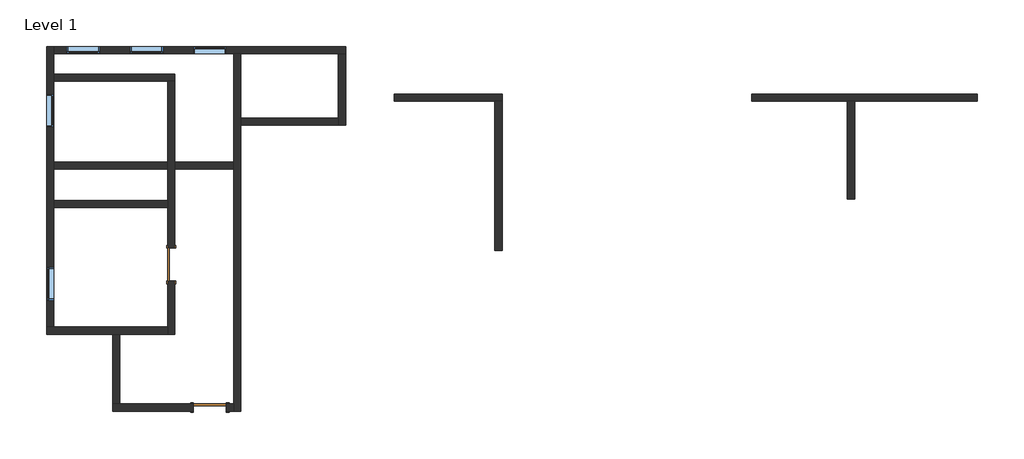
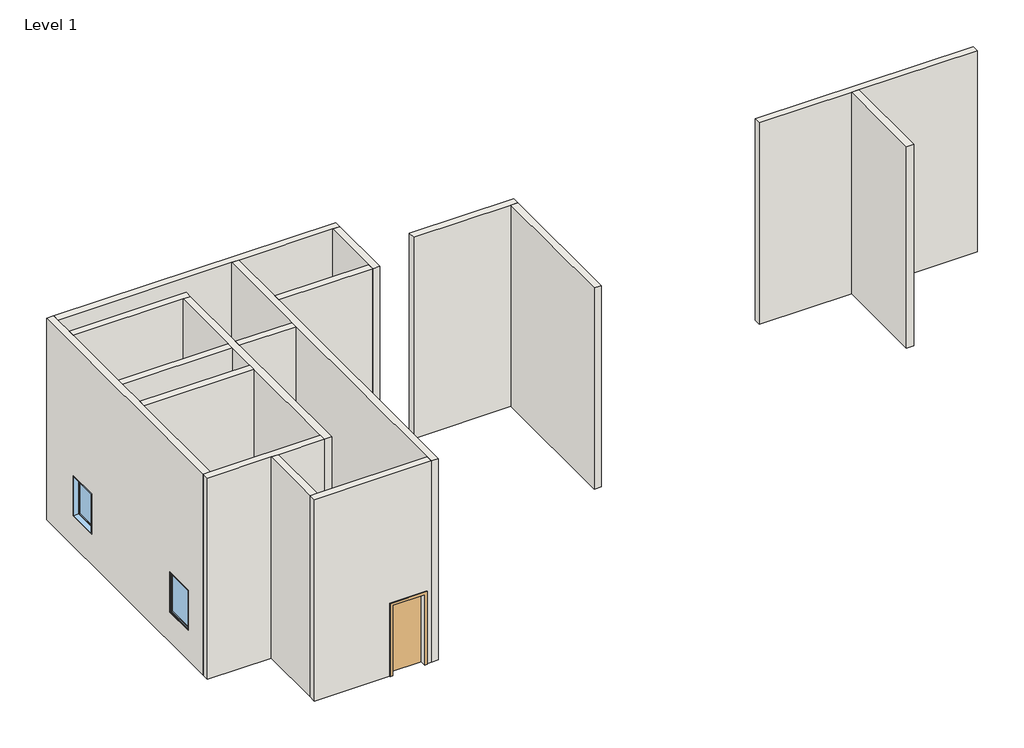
# One storey: 16 walls, 5 windows, 2 doors.
"""IFC4 building model written with IfcOpenShell, lengths in millimetres."""

from ifc_helpers import new_model, si_unit, origin, origin_with_axes, place, context, project, spatial, polyline, outline, extrude, faceted_brep, transform, mapped, element, save
from components import door_54dd4da4, door_719f80de, window_e2841890

model = new_model("IFC4")

# Units and contexts
model_context = context("Model", 3, world=origin())
ifc_project = project(units=[si_unit("LENGTHUNIT", "METRE", prefix="MILLI")], contexts=[model_context])

# Site, building, storey
site = spatial("IfcSite", under=ifc_project)
building = spatial("IfcBuilding", under=site)
storey = spatial("IfcBuildingStorey", under=building, Name="Level 1", Elevation=0.0)

# Doors
placement = place(None, origin())
door_shape = door_54dd4da4(model_context)
element("IfcDoor", 1, ObjectType="Single-Flush : 36\" x 84\"", at=placement, inside=storey, context=model_context, shape_type="MappedRepresentation", body=[
    mapped(door_shape, transform((-10326.9912144, 11594.5480126, 0.0), x_axis=(0.0, 1.0, 0.0), y_axis=(-1.0, 0.0, 0.0), z_axis=(0.0, 0.0, 1.0))),
])
door_2_shape = door_719f80de(model_context)
element("IfcDoor", 2, ObjectType="Single-Flush : 36\" x 84\"", at=placement, inside=storey, context=model_context, shape_type="MappedRepresentation", body=[
    mapped(door_2_shape, transform((-9260.1912144, 7632.1480126, 0.0), x_axis=(-1.0, 0.0, 0.0), y_axis=(0.0, -1.0, 0.0), z_axis=(0.0, 0.0, 1.0))),
])

# Walls
element("IfcWall", 3, ObjectType="Generic - 8\"", at=placement, inside=storey, context=model_context, shape_type="SweptSolid", body=[
    extrude(outline(polyline([(-10428.5912144, 13169.3480126), (-13578.1912144, 13169.3480126), (-13578.1912144, 13372.5480126), (-10428.5912144, 13372.5480126), (-10428.5912144, 13169.3480126)])), origin_with_axes(), (0.0, 0.0, 1.0), 6096.0),
])
element("IfcWall", 4, ObjectType="Generic - 8\"", at=placement, inside=storey, context=model_context, shape_type="Brep", body=[
    faceted_brep([(-10428.5912144, 16674.5480126, 0.0), (-10428.5912144, 14439.3480126, 0.0), (-10428.5912144, 14236.1480126, 0.0), (-10428.5912144, 13372.5480126, 0.0), (-10428.5912144, 13169.3480126, 0.0), (-10428.5912144, 12051.7480126, 0.0), (-10428.5912144, 12051.7480126, 2133.6), (-10428.5912144, 11137.3480126, 2133.6), (-10428.5912144, 11137.3480126, 0.0), (-10428.5912144, 9867.3480126, 0.0), (-10428.5912144, 9664.1480126, 0.0), (-10428.5912144, 9664.1480126, 6096.0), (-10428.5912144, 9867.3480126, 6096.0), (-10428.5912144, 13169.3480126, 6096.0), (-10428.5912144, 13372.5480126, 6096.0), (-10428.5912144, 14236.1480126, 6096.0), (-10428.5912144, 14439.3480126, 6096.0), (-10428.5912144, 16674.5480126, 6096.0), (-10225.3912144, 12051.7480126, 2133.6), (-10225.3912144, 12051.7480126, 0.0), (-10225.3912144, 14236.1480126, 0.0), (-10225.3912144, 14439.3480126, 0.0), (-10225.3912144, 16674.5480126, 0.0), (-10225.3912144, 16674.5480126, 6096.0), (-10225.3912144, 14439.3480126, 6096.0), (-10225.3912144, 14236.1480126, 6096.0), (-10225.3912144, 9664.1480126, 6096.0), (-10225.3912144, 9664.1480126, 0.0), (-10225.3912144, 11137.3480126, 0.0), (-10225.3912144, 11137.3480126, 2133.6)], [[[0, 1, 2, 3, 4, 5, 6, 7, 8, 9, 10, 11, 12, 13, 14, 15, 16, 17]], [[18, 19, 20, 21, 22, 23, 24, 25, 26, 27, 28, 29]], [[28, 27, 10, 9, 8]], [[22, 21, 20, 19, 5, 4, 3, 2, 1, 0]], [[17, 16, 15, 14, 13, 12, 11, 26, 25, 24, 23]], [[11, 10, 27, 26]], [[6, 5, 19, 18]], [[7, 6, 18, 29]], [[8, 7, 29, 28]], [[0, 17, 23, 22]]]),
])
element("IfcWall", 5, ObjectType="Generic - 8\"", at=placement, inside=storey, context=model_context, shape_type="Brep", body=[
    faceted_brep([(-10428.5912144, 9867.3480126, 0.0), (-13578.1912144, 9867.3480126, 0.0), (-13781.3912144, 9867.3480126, 0.0), (-13781.3912144, 9867.3480126, 6096.0), (-13578.1912144, 9867.3480126, 6096.0), (-10428.5912144, 9867.3480126, 6096.0), (-10428.5912144, 9664.1480126, 0.0), (-10428.5912144, 9664.1480126, 6096.0), (-11749.3912144, 9664.1480126, 6096.0), (-11952.5912144, 9664.1480126, 6096.0), (-13781.3912144, 9664.1480126, 6096.0), (-13781.3912144, 9664.1480126, 0.0), (-11952.5912144, 9664.1480126, 0.0), (-11749.3912144, 9664.1480126, 0.0)], [[[0, 1, 2, 3, 4, 5]], [[6, 7, 8, 9, 10, 11, 12, 13]], [[2, 1, 0, 6, 13, 12, 11]], [[5, 4, 3, 10, 9, 8, 7]], [[0, 5, 7, 6]], [[3, 2, 11, 10]]]),
])
element("IfcWall", 6, ObjectType="Generic - 8\"", at=placement, inside=storey, context=model_context, shape_type="Brep", body=[
    faceted_brep([(-13578.1912144, 9867.3480126, 0.0), (-13578.1912144, 13169.3480126, 0.0), (-13578.1912144, 13372.5480126, 0.0), (-13578.1912144, 14236.1480126, 0.0), (-13578.1912144, 14439.3480126, 0.0), (-13578.1912144, 16674.5480126, 0.0), (-13578.1912144, 16877.7480126, 0.0), (-13578.1912144, 17436.5480126, 0.0), (-13578.1912144, 17639.7480126, 0.0), (-13578.1912144, 17639.7480126, 6096.0), (-13578.1912144, 17436.5480126, 6096.0), (-13578.1912144, 16877.7480126, 6096.0), (-13578.1912144, 16674.5480126, 6096.0), (-13578.1912144, 14439.3480126, 6096.0), (-13578.1912144, 14236.1480126, 6096.0), (-13578.1912144, 13372.5480126, 6096.0), (-13578.1912144, 13169.3480126, 6096.0), (-13578.1912144, 9867.3480126, 6096.0), (-13578.1912144, 11518.3480126, 2133.6), (-13578.1912144, 11518.3480126, 914.4), (-13578.1912144, 10603.9480126, 914.4), (-13578.1912144, 10603.9480126, 2133.6), (-13578.1912144, 15404.5480126, 2133.6), (-13578.1912144, 16318.9480126, 2133.6), (-13578.1912144, 16318.9480126, 914.4), (-13578.1912144, 15404.5480126, 914.4), (-13781.3912144, 9867.3480126, 0.0), (-13781.3912144, 9867.3480126, 6096.0), (-13781.3912144, 17639.7480126, 6096.0), (-13781.3912144, 17639.7480126, 0.0), (-13781.3912144, 11518.3480126, 2133.6), (-13781.3912144, 10603.9480126, 2133.6), (-13781.3912144, 10603.9480126, 914.4), (-13781.3912144, 11518.3480126, 914.4), (-13781.3912144, 15404.5480126, 2133.6), (-13781.3912144, 15404.5480126, 914.4), (-13781.3912144, 16318.9480126, 914.4), (-13781.3912144, 16318.9480126, 2133.6)], [[[0, 1, 2, 3, 4, 5, 6, 7, 8, 9, 10, 11, 12, 13, 14, 15, 16, 17], [18, 19, 20, 21], [22, 23, 24, 25]], [[26, 27, 28, 29], [30, 31, 32, 33], [34, 35, 36, 37]], [[8, 7, 6, 5, 4, 3, 2, 1, 0, 26, 29]], [[17, 16, 15, 14, 13, 12, 11, 10, 9, 28, 27]], [[0, 17, 27, 26]], [[9, 8, 29, 28]], [[19, 18, 30, 33]], [[20, 19, 33, 32]], [[21, 20, 32, 31]], [[18, 21, 31, 30]], [[35, 34, 22, 25]], [[36, 35, 25, 24]], [[37, 36, 24, 23]], [[34, 37, 23, 22]]]),
])
element("IfcWall", 7, ObjectType="Generic - 8\"", at=placement, inside=storey, context=model_context, shape_type="Brep", body=[
    faceted_brep([(-13578.1912144, 17436.5480126, 0.0), (-8599.7912144, 17436.5480126, 0.0), (-8396.5912144, 17436.5480126, 0.0), (-5704.1912144, 17436.5480126, 0.0), (-5500.9912144, 17436.5480126, 0.0), (-5500.9912144, 17436.5480126, 6096.0), (-5704.1912144, 17436.5480126, 6096.0), (-8396.5912144, 17436.5480126, 6096.0), (-8599.7912144, 17436.5480126, 6096.0), (-13578.1912144, 17436.5480126, 6096.0), (-13222.5912144, 17436.5480126, 2133.6), (-12308.1912144, 17436.5480126, 2133.6), (-12308.1912144, 17436.5480126, 914.4), (-13222.5912144, 17436.5480126, 914.4), (-8802.9912144, 17436.5480126, 2133.6), (-8802.9912144, 17436.5480126, 914.4), (-9717.3912144, 17436.5480126, 914.4), (-9717.3912144, 17436.5480126, 2133.6), (-11469.9912144, 17436.5480126, 2133.6), (-10555.5912144, 17436.5480126, 2133.6), (-10555.5912144, 17436.5480126, 914.4), (-11469.9912144, 17436.5480126, 914.4), (-13578.1912144, 17639.7480126, 0.0), (-13578.1912144, 17639.7480126, 6096.0), (-5500.9912144, 17639.7480126, 6096.0), (-5500.9912144, 17639.7480126, 0.0), (-13222.5912144, 17639.7480126, 2133.6), (-13222.5912144, 17639.7480126, 914.4), (-12308.1912144, 17639.7480126, 914.4), (-12308.1912144, 17639.7480126, 2133.6), (-8802.9912144, 17639.7480126, 2133.6), (-9717.3912144, 17639.7480126, 2133.6), (-9717.3912144, 17639.7480126, 914.4), (-8802.9912144, 17639.7480126, 914.4), (-11469.9912144, 17639.7480126, 2133.6), (-11469.9912144, 17639.7480126, 914.4), (-10555.5912144, 17639.7480126, 914.4), (-10555.5912144, 17639.7480126, 2133.6)], [[[0, 1, 2, 3, 4, 5, 6, 7, 8, 9], [10, 11, 12, 13], [14, 15, 16, 17], [18, 19, 20, 21]], [[22, 23, 24, 25], [26, 27, 28, 29], [30, 31, 32, 33], [34, 35, 36, 37]], [[4, 3, 2, 1, 0, 22, 25]], [[9, 8, 7, 6, 5, 24, 23]], [[0, 9, 23, 22]], [[27, 26, 10, 13]], [[28, 27, 13, 12]], [[29, 28, 12, 11]], [[26, 29, 11, 10]], [[15, 14, 30, 33]], [[16, 15, 33, 32]], [[17, 16, 32, 31]], [[14, 17, 31, 30]], [[35, 34, 18, 21]], [[36, 35, 21, 20]], [[37, 36, 20, 19]], [[34, 37, 19, 18]], [[5, 4, 25, 24]]]),
])
element("IfcWall", 8, ObjectType="Generic - 8\"", at=placement, inside=storey, context=model_context, shape_type="Brep", body=[
    faceted_brep([(-8599.7912144, 17436.5480126, 0.0), (-8599.7912144, 14439.3480126, 0.0), (-8599.7912144, 14236.1480126, 0.0), (-8599.7912144, 7733.7480126, 0.0), (-8599.7912144, 7530.5480126, 0.0), (-8599.7912144, 7530.5480126, 6096.0), (-8599.7912144, 7733.7480126, 6096.0), (-8599.7912144, 14236.1480126, 6096.0), (-8599.7912144, 14439.3480126, 6096.0), (-8599.7912144, 17436.5480126, 6096.0), (-8396.5912144, 17436.5480126, 0.0), (-8396.5912144, 17436.5480126, 6096.0), (-8396.5912144, 15658.5480126, 6096.0), (-8396.5912144, 15455.3480126, 6096.0), (-8396.5912144, 7530.5480126, 6096.0), (-8396.5912144, 7530.5480126, 0.0), (-8396.5912144, 15455.3480126, 0.0), (-8396.5912144, 15658.5480126, 0.0)], [[[0, 1, 2, 3, 4, 5, 6, 7, 8, 9]], [[10, 11, 12, 13, 14, 15, 16, 17]], [[4, 3, 2, 1, 0, 10, 17, 16, 15]], [[9, 8, 7, 6, 5, 14, 13, 12, 11]], [[0, 9, 11, 10]], [[5, 4, 15, 14]]]),
])
element("IfcWall", 9, ObjectType="Generic - 8\"", at=placement, inside=storey, context=model_context, shape_type="Brep", body=[
    faceted_brep([(-9717.3912144, 7733.7480126, 2133.6), (-9717.3912144, 7733.7480126, 0.0), (-11749.3912144, 7733.7480126, 0.0), (-11952.5912144, 7733.7480126, 0.0), (-11952.5912144, 7733.7480126, 6096.0), (-11749.3912144, 7733.7480126, 6096.0), (-8599.7912144, 7733.7480126, 6096.0), (-8599.7912144, 7733.7480126, 0.0), (-8802.9912144, 7733.7480126, 0.0), (-8802.9912144, 7733.7480126, 2133.6), (-11952.5912144, 7530.5480126, 0.0), (-9717.3912144, 7530.5480126, 0.0), (-9717.3912144, 7530.5480126, 2133.6), (-8802.9912144, 7530.5480126, 2133.6), (-8802.9912144, 7530.5480126, 0.0), (-8599.7912144, 7530.5480126, 0.0), (-8599.7912144, 7530.5480126, 6096.0), (-11952.5912144, 7530.5480126, 6096.0)], [[[0, 1, 2, 3, 4, 5, 6, 7, 8, 9]], [[10, 11, 12, 13, 14, 15, 16, 17]], [[8, 7, 15, 14]], [[3, 2, 1, 11, 10]], [[6, 5, 4, 17, 16]], [[7, 6, 16, 15]], [[4, 3, 10, 17]], [[12, 11, 1, 0]], [[13, 12, 0, 9]], [[14, 13, 9, 8]]]),
])
element("IfcWall", 10, ObjectType="Generic - 8\"", at=placement, inside=storey, context=model_context, shape_type="SweptSolid", body=[
    extrude(outline(polyline([(-11749.3912144, 9664.1480126), (-11749.3912144, 7733.7480126), (-11952.5912144, 7733.7480126), (-11952.5912144, 9664.1480126), (-11749.3912144, 9664.1480126)])), origin_with_axes(), (0.0, 0.0, 1.0), 6096.0),
])
element("IfcWall", 11, ObjectType="Generic - 8\"", at=placement, inside=storey, context=model_context, shape_type="SweptSolid", body=[
    extrude(outline(polyline([(-13578.1912144, 14236.1480126), (-13578.1912144, 14439.3480126), (-10428.5912144, 14439.3480126), (-10428.5912144, 14236.1480126), (-13578.1912144, 14236.1480126)])), origin_with_axes(), (0.0, 0.0, 1.0), 6096.0),
    extrude(outline(polyline([(-8599.7912144, 14439.3480126), (-8599.7912144, 14236.1480126), (-10225.3912144, 14236.1480126), (-10225.3912144, 14439.3480126), (-8599.7912144, 14439.3480126)])), origin_with_axes(), (0.0, 0.0, 1.0), 6096.0),
])
element("IfcWall", 12, ObjectType="Generic - 8\"", at=placement, inside=storey, context=model_context, shape_type="Brep", body=[
    faceted_brep([(-13578.1912144, 16674.5480126, 0.0), (-10428.5912144, 16674.5480126, 0.0), (-10225.3912144, 16674.5480126, 0.0), (-10225.3912144, 16674.5480126, 6096.0), (-10428.5912144, 16674.5480126, 6096.0), (-13578.1912144, 16674.5480126, 6096.0), (-13578.1912144, 16877.7480126, 0.0), (-13578.1912144, 16877.7480126, 6096.0), (-10225.3912144, 16877.7480126, 6096.0), (-10225.3912144, 16877.7480126, 0.0)], [[[0, 1, 2, 3, 4, 5]], [[6, 7, 8, 9]], [[2, 1, 0, 6, 9]], [[5, 4, 3, 8, 7]], [[0, 5, 7, 6]], [[3, 2, 9, 8]]]),
])
element("IfcWall", 13, ObjectType="Generic - 8\"", at=placement, inside=storey, context=model_context, shape_type="Brep", body=[
    faceted_brep([(-4148.9156358, 16120.9678451, 0.0), (-1362.797677, 16120.9678451, 0.0), (-1159.597677, 16120.9678451, 0.0), (-1159.597677, 16120.9678451, 6096.0), (-1362.797677, 16120.9678451, 6096.0), (-4148.9156358, 16120.9678451, 6096.0), (-4148.9156358, 16324.1678451, 0.0), (-4148.9156358, 16324.1678451, 6096.0), (-1159.597677, 16324.1678451, 6096.0), (-1159.597677, 16324.1678451, 0.0)], [[[0, 1, 2, 3, 4, 5]], [[6, 7, 8, 9]], [[2, 1, 0, 6, 9]], [[5, 4, 3, 8, 7]], [[0, 5, 7, 6]], [[3, 2, 9, 8]]]),
])
element("IfcWall", 14, ObjectType="Generic - 8\"", at=placement, inside=storey, context=model_context, shape_type="SweptSolid", body=[
    extrude(outline(polyline([(-1159.597677, 16120.9678451), (-1159.597677, 11987.8317239), (-1362.797677, 11987.8317239), (-1362.797677, 16120.9678451), (-1159.597677, 16120.9678451)])), origin_with_axes(), (0.0, 0.0, 1.0), 6096.0),
])
element("IfcWall", 15, ObjectType="Generic - 8\"", at=placement, inside=storey, context=model_context, shape_type="Brep", body=[
    faceted_brep([(-5704.1912144, 17436.5480126, 0.0), (-5704.1912144, 15658.5480126, 0.0), (-5704.1912144, 15455.3480126, 0.0), (-5704.1912144, 15455.3480126, 6096.0), (-5704.1912144, 15658.5480126, 6096.0), (-5704.1912144, 17436.5480126, 6096.0), (-5500.9912144, 17436.5480126, 0.0), (-5500.9912144, 17436.5480126, 6096.0), (-5500.9912144, 15455.3480126, 6096.0), (-5500.9912144, 15455.3480126, 0.0)], [[[0, 1, 2, 3, 4, 5]], [[6, 7, 8, 9]], [[2, 1, 0, 6, 9]], [[5, 4, 3, 8, 7]], [[0, 5, 7, 6]], [[3, 2, 9, 8]]]),
])
element("IfcWall", 16, ObjectType="Generic - 8\"", at=placement, inside=storey, context=model_context, shape_type="SweptSolid", body=[
    extrude(outline(polyline([(-8396.5912144, 15658.5480126), (-5704.1912144, 15658.5480126), (-5704.1912144, 15455.3480126), (-8396.5912144, 15455.3480126), (-8396.5912144, 15658.5480126)])), origin_with_axes(), (0.0, 0.0, 1.0), 6096.0),
])
element("IfcWall", 17, ObjectType="Generic - 8\"", at=placement, inside=storey, context=model_context, shape_type="Brep", body=[
    faceted_brep([(5749.202323, 16120.9678451, 0.0), (8396.1814468, 16120.9678451, 0.0), (8599.3814468, 16120.9678451, 0.0), (11997.602323, 16120.9678451, 0.0), (11997.602323, 16120.9678451, 6096.0), (8599.3814468, 16120.9678451, 6096.0), (8396.1814468, 16120.9678451, 6096.0), (5749.202323, 16120.9678451, 6096.0), (5749.202323, 16324.1678451, 0.0), (5749.202323, 16324.1678451, 6096.0), (11997.602323, 16324.1678451, 6096.0), (11997.602323, 16324.1678451, 0.0)], [[[0, 1, 2, 3, 4, 5, 6, 7]], [[8, 9, 10, 11]], [[3, 2, 1, 0, 8, 11]], [[4, 3, 11, 10]], [[7, 6, 5, 4, 10, 9]], [[0, 7, 9, 8]]]),
])
element("IfcWall", 18, ObjectType="Generic - 8\"", at=placement, inside=storey, context=model_context, shape_type="SweptSolid", body=[
    extrude(outline(polyline([(8396.1814468, 13405.8294599), (8396.1814468, 16120.9678451), (8599.3814468, 16120.9678451), (8599.3814468, 13405.8294599), (8396.1814468, 13405.8294599)])), origin_with_axes(), (0.0, 0.0, 1.0), 6096.0),
])

# Windows
window_shape = window_e2841890(model_context)
element("IfcWindow", 19, ObjectType="Fixed : 36\" x 48\"", at=placement, inside=storey, context=model_context, shape_type="MappedRepresentation", body=[
    mapped(window_shape, transform((-12803.4912144, 17538.1480126, 0.0), x_axis=(-1.0, 0.0, 0.0), y_axis=(0.0, -1.0, 0.0), z_axis=(0.0, 0.0, 1.0))),
])
element("IfcWindow", 20, ObjectType="Fixed : 36\" x 48\"", at=placement, inside=storey, context=model_context, shape_type="MappedRepresentation", body=[
    mapped(window_shape, transform((-9222.0912144, 17538.1480126, 0.0), x_axis=(1.0, 0.0, 0.0), y_axis=(0.0, 1.0, 0.0), z_axis=(0.0, 0.0, 1.0))),
])
element("IfcWindow", 21, ObjectType="Fixed : 36\" x 48\"", at=placement, inside=storey, context=model_context, shape_type="MappedRepresentation", body=[
    mapped(window_shape, transform((-11050.8912144, 17538.1480126, 0.0), x_axis=(-1.0, 0.0, 0.0), y_axis=(0.0, -1.0, 0.0), z_axis=(0.0, 0.0, 1.0))),
])
element("IfcWindow", 22, ObjectType="Fixed : 36\" x 48\"", at=placement, inside=storey, context=model_context, shape_type="MappedRepresentation", body=[
    mapped(window_shape, transform((-13679.7912144, 11099.2480126, 0.0), x_axis=(0.0, 1.0, 0.0), y_axis=(-1.0, 0.0, 0.0), z_axis=(0.0, 0.0, 1.0))),
])
element("IfcWindow", 23, ObjectType="Fixed : 36\" x 48\"", at=placement, inside=storey, context=model_context, shape_type="MappedRepresentation", body=[
    mapped(window_shape, transform((-13679.7912144, 15823.6480126, 0.0), x_axis=(0.0, -1.0, 0.0), y_axis=(1.0, 0.0, 0.0), z_axis=(0.0, 0.0, 1.0))),
])

save(model, "model.ifc")
